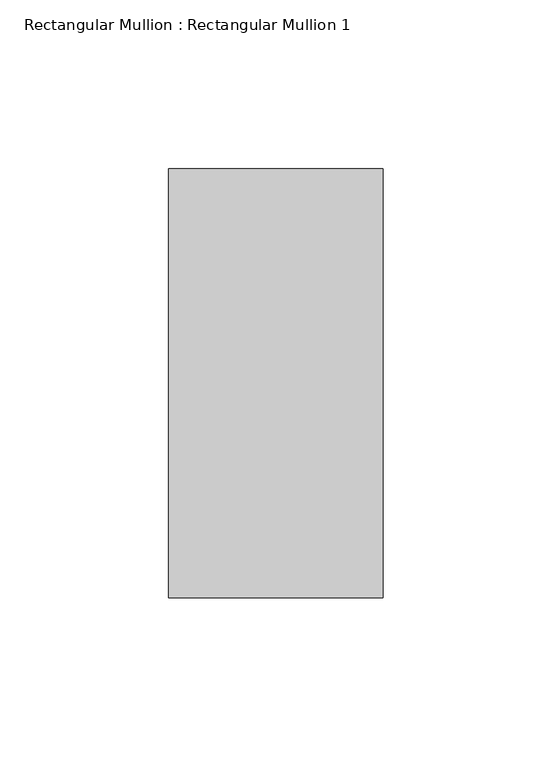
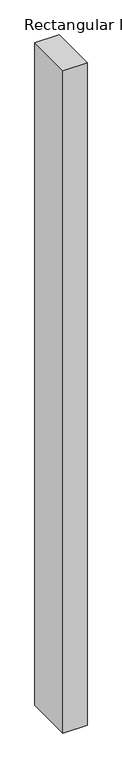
"""IFC4 building model written with IfcOpenShell, lengths in millimetres: member geometry, Rectangular Mullion : Rectangular Mullion 1."""

from ifc_helpers import new_model, si_unit, frame, origin, place, context, project, spatial, polyline, outline, extrude, source, transform, mapped, element, save


def rectangular_mullion_rectangular_mullion_1_e13054cf(model_context):
    return source(origin(), model_context, "Body", "SweptSolid", [
        extrude(outline(polyline([(31.75, 63.5), (31.75, -63.5), (-31.75, -63.5), (-31.75, 63.5), (31.75, 63.5)])), frame((0.0, 0.0, -1836.4999998), z_axis=(0.0, 0.0, 1.0), x_axis=(1.0, 0.0, 0.0)), (0.0, 0.0, 1.0), 1836.4999998),
    ])


if __name__ == "__main__":
    model = new_model("IFC4")
    model_context = context("Model", 3, world=origin())
    ifc_project = project(units=[si_unit("LENGTHUNIT", "METRE", prefix="MILLI")], contexts=[model_context])
    site = spatial("IfcSite", under=ifc_project)
    building = spatial("IfcBuilding", under=site)
    placement = place(None, origin())
    rectangular_mullion_rectangular_mullion_1_shape = rectangular_mullion_rectangular_mullion_1_e13054cf(model_context)
    element("IfcMember", 1, ObjectType="Rectangular Mullion : Rectangular Mullion 1", at=placement, inside=building, context=model_context, shape_type="MappedRepresentation", body=[
        mapped(rectangular_mullion_rectangular_mullion_1_shape, transform((0.0, 0.0, 0.0), x_axis=(1.0, 0.0, 0.0), y_axis=(0.0, 1.0, 0.0), z_axis=(0.0, 0.0, 1.0))),
    ])
    save(model, "model.ifc")
